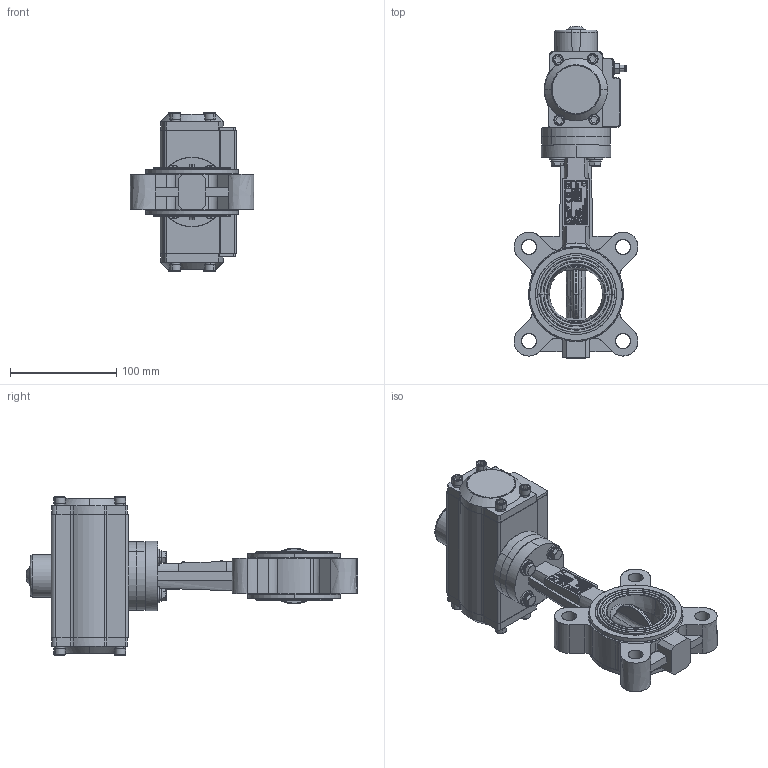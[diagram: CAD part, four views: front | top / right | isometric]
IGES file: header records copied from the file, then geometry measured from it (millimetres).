
Start section: SolidWorks IGES file using analytic representation for surfaces
Global section: file name: H:\BE FABRICATION\BE SERIE\VP\VP SERIE\F072 VPG\plan 3D\VPG-N03\LUG\DN50\VP464X-N03XX0050.igs; native system: SolidWorks 2020; preprocessor: SolidWorks 2020; author: k.gigout; date: 220627.175410; units: millimetre
Bounding box: 116.39 x 311.82 x 148.56 mm (x, y, z)
Surface area: 151006.4 mm2 (no closed solid volume)
Topology: 0 solids, 0 shells, 834 faces, 18681 edges, 18677 vertices
Faces by surface type: bspline 526, revolution 308
